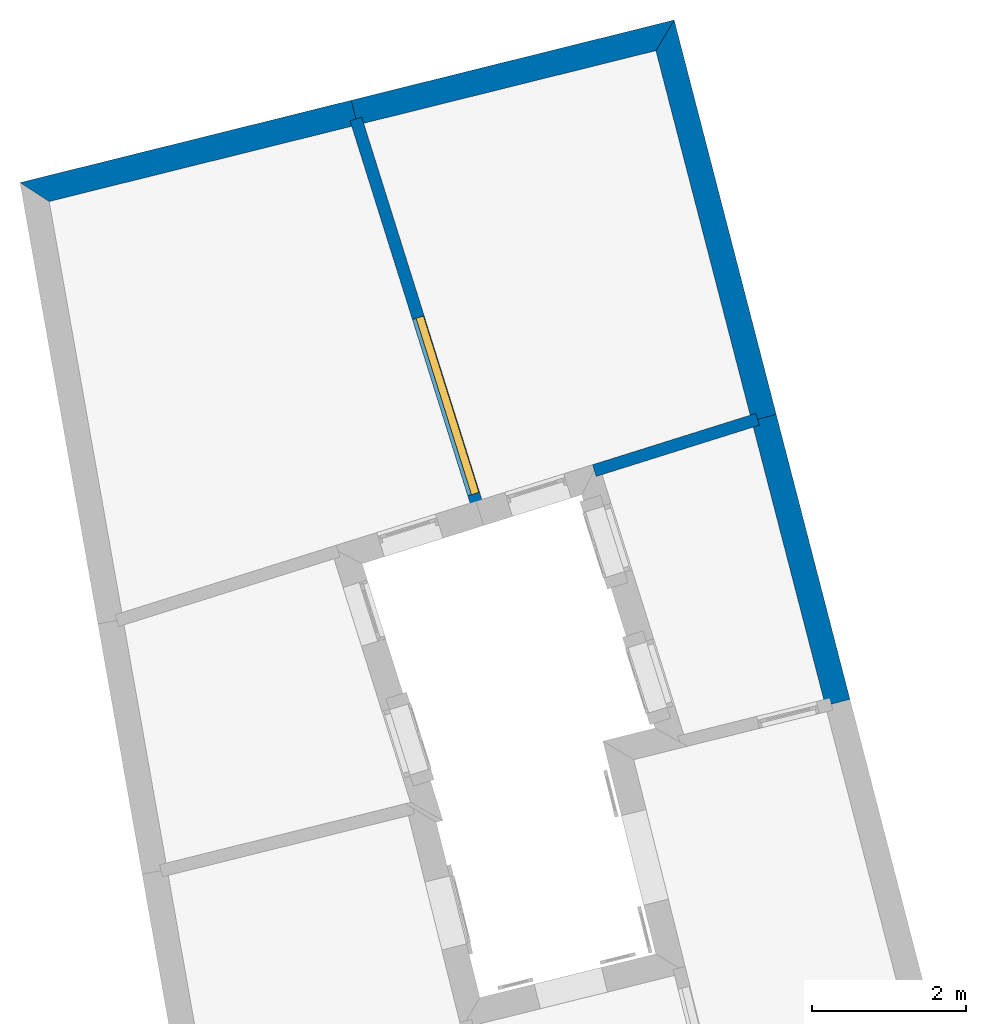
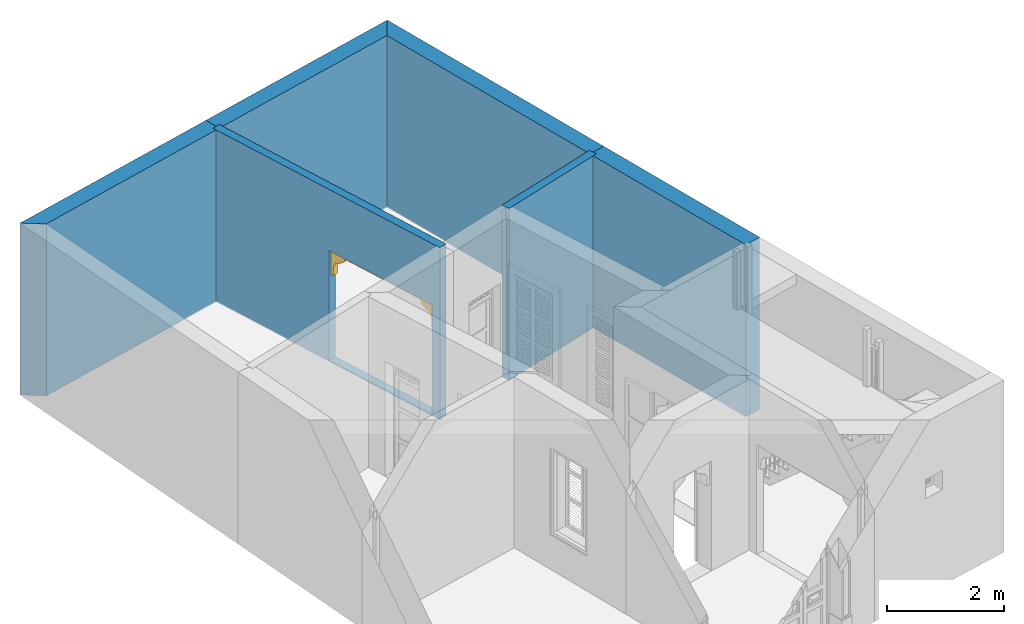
# One storey, part 14 of 14: 6 walls, 1 door, 1 opening.
"""IFC4 building model written with IfcOpenShell, lengths in metres."""

from ifc_helpers import new_model, si_unit, frame, origin, origin_with_axes, place, context, subcontext, project, spatial, polyline, outline, extrude, faceted_brep, source, transform, mapped, material, layer, layer_set, layer_usage, type_object, type_shapes, element, fill, save


model = new_model("IFC4")

# Units and contexts
model_context = context("Model", 3, world=origin_with_axes())
body_context = subcontext(model_context, "Body", "Model", "MODEL_VIEW")
ifc_project = project(units=[si_unit("PLANEANGLEUNIT", "RADIAN"), si_unit("MASSUNIT", "GRAM", prefix="KILO"), si_unit("FORCEUNIT", "NEWTON", prefix="KILO"), si_unit("LENGTHUNIT", "METRE"), si_unit("AREAUNIT", "SQUARE_METRE"), si_unit("VOLUMEUNIT", "CUBIC_METRE")], contexts=[model_context, model_context])

# Site, building, storey
site_placement = place(None, origin_with_axes())
site = spatial("IfcSite", under=ifc_project, at=site_placement, Name="Site plot-0", CompositionType="ELEMENT")
building_placement = place(None, origin_with_axes())
building = spatial("IfcBuilding", under=site, at=building_placement, Name="Building plot-0", CompositionType="ELEMENT")
storey_placement = place(None, origin_with_axes())
storey = spatial("IfcBuildingStorey", under=building, at=storey_placement, Name="plot-0 0", CompositionType="ELEMENT", Elevation=0.0)

# Walls
ifc_material_1 = material(Name="Masonry")
ifc_layer_1 = layer(ifc_material_1, 0.33, ventilated=False)
ifc_layer_set_1 = layer_set([ifc_layer_1], Name="party_0.08_0.25")
ifc_layer_usage_1 = layer_usage(ifc_layer_set_1, "AXIS2", "POSITIVE", -0.25)
wall_type_1 = type_object("IfcWallType", Name="party_0.08_0.25", PredefinedType="SOLIDWALL", material=ifc_layer_set_1)
wall_1_placement = place(storey_placement, frame((9.41619957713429, 6.73678742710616, 0.0), z_axis=(0.0, 0.0, 1.0), x_axis=(-0.250522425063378, 0.968110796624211, 0.0)))
element("IfcWall", 1, at=wall_1_placement, inside=storey, type_object=wall_type_1, material=ifc_layer_usage_1, Name="party", context=body_context, shape_type="SweptSolid", body=[
    extrude(outline(polyline([(7.86495596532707e-16, 0.0800000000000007), (-1.09491493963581e-15, -0.249999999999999), (3.82113603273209, -0.25), (3.82113603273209, 0.0799999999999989), (7.86495596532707e-16, 0.0800000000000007)])), origin_with_axes(), (0.0, 0.0, 1.0), 3.6),
])
wall_2_placement = place(storey_placement, frame((8.45891931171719, 10.4360704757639, 0.0), z_axis=(0.0, 0.0, 1.0), x_axis=(-0.250522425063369, 0.968110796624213, 0.0)))
element("IfcWall", 2, at=wall_2_placement, inside=storey, type_object=wall_type_1, material=ifc_layer_usage_1, Name="party", context=body_context, shape_type="SweptSolid", body=[
    extrude(outline(polyline([(-1.30960547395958e-15, 0.0799999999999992), (3.01291025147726e-15, -0.25), (5.29157297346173, -0.25), (4.96472700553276, 0.0799999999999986), (-1.30960547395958e-15, 0.0799999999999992)])), origin_with_axes(), (0.0, 0.0, 1.0), 3.6),
])
wall_3_placement = place(storey_placement, frame((7.19529362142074, 15.3191849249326, 0.0), z_axis=(0.0, 0.0, 1.0), x_axis=(-0.970472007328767, -0.241213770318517, 0.0)))
element("IfcWall", 3, at=wall_3_placement, inside=storey, type_object=wall_type_1, material=ifc_layer_usage_1, Name="party", context=body_context, shape_type="SweptSolid", body=[
    extrude(outline(polyline([(0.0792353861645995, 0.0799999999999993), (-0.247610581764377, -0.25), (4.07381579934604, -0.250000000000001), (4.07381579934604, 0.0799999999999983), (0.0792353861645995, 0.0799999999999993)])), origin_with_axes(), (0.0, 0.0, 1.0), 3.6),
])
wall_4_placement = place(storey_placement, frame((3.24176942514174, 14.3365244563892, 0.0), z_axis=(0.0, 0.0, 1.0), x_axis=(-0.970472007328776, -0.241213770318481, 0.0)))
element("IfcWall", 4, at=wall_4_placement, inside=storey, type_object=wall_type_1, material=ifc_layer_usage_1, Name="party", context=body_context, shape_type="SweptSolid", body=[
    extrude(outline(polyline([(-2.99897525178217e-15, 0.0799999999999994), (9.23015918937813e-15, -0.25), (4.43234420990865, -0.250000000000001), (4.12427449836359, 0.0799999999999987), (-2.99897525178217e-15, 0.0799999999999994)])), origin_with_axes(), (0.0, 0.0, 1.0), 3.6),
])

# Wall, opening, door
ifc_material_2 = material(Name="Masonry")
ifc_layer_2 = layer(ifc_material_2, 0.16, ventilated=False)
ifc_layer_set_2 = layer_set([ifc_layer_2], Name="interior_0.08_0.08")
ifc_layer_usage_2 = layer_usage(ifc_layer_set_2, "AXIS2", "POSITIVE", -0.08)
wall_type_2 = type_object("IfcWallType", Name="interior_0.08_0.08", PredefinedType="SOLIDWALL", material=ifc_layer_set_2)
wall_5_placement = place(storey_placement, frame((4.82576473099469, 9.29464982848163, 0.0), z_axis=(0.0, 0.0, 1.0), x_axis=(-0.299724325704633, 0.954025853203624, 0.0)))
wall_5 = element("IfcWall", 5, at=wall_5_placement, inside=storey, type_object=wall_type_2, material=ifc_layer_usage_2, Name="interior", context=body_context, shape_type="SweptSolid", body=[
    extrude(outline(polyline([(-7.41171285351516e-16, 0.08), (7.50968459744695e-16, -0.08), (5.2848406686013, -0.0799999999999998), (5.2848406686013, 0.0799999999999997), (-7.41171285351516e-16, 0.08)])), origin_with_axes(), (0.0, 0.0, 1.0), 3.6),
])
opening_placement = place(wall_5_placement, frame((0.18, 0.0, 0.02)))
opening = element("IfcOpeningElement", 6, at=opening_placement, cuts=wall_5, Name="My Opening", ObjectType="Opening", context=body_context, shape_type="SweptSolid", body=[
    extrude(outline(polyline([(0.0, -0.0999999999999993), (2.4, -0.0999999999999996), (2.4, 1.1), (-1.94289029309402e-15, 1.1), (0.0, -0.0999999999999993)])), origin_with_axes(), (0.0, 0.0, 1.0), 2.3),
])
door_type = type_object("IfcDoorType", Name="arch-2400x2300-thin", OperationType="SINGLE_SWING_LEFT", PredefinedType="NOTDEFINED")
shared_shape = source(origin(), body_context, "Body", "Brep", [
    faceted_brep([(2.4, 0.03, 1.78), (2.4, 0.03, 1.95), (2.34, 0.03, 1.95), (2.34, 0.03, 1.78), (2.34, 0.13, 1.95), (2.34, 0.13, 1.78), (2.4, 0.03, 2.12), (2.329, 0.03, 2.004), (2.4, 0.13, 1.78), (2.4, 0.13, 1.95), (2.329, 0.13, 2.004), (2.299, 0.03, 2.049), (2.4, 0.13, 2.12), (2.299, 0.13, 2.049), (2.254, 0.03, 2.079), (2.4, 0.13, 2.29), (2.4, 0.03, 2.29), (2.254, 0.13, 2.079), (2.2, 0.03, 2.09), (2.2, 0.03, 2.12), (2.154, 0.03, 2.129), (2.08, 0.13, 2.29), (2.08, 0.03, 2.29), (2.2, 0.13, 2.12), (2.154, 0.13, 2.129), (2.2, 0.13, 2.09), (2.115, 0.03, 2.155), (2.089, 0.13, 2.194), (2.08, 0.13, 2.24), (2.08, 0.03, 2.24), (2.089, 0.03, 2.194), (2.115, 0.13, 2.155), (0.06, 0.03, 1.78), (0.06, 0.03, 1.95), (0.0, 0.03, 1.95), (0.0, 0.03, 1.78), (0.06, 0.13, 1.78), (0.06, 0.13, 1.95), (0.071, 0.03, 2.004), (0.0, 0.03, 2.12), (0.0, 0.13, 1.95), (0.0, 0.13, 1.78), (0.071, 0.13, 2.004), (0.101, 0.03, 2.049), (0.0, 0.13, 2.12), (0.101, 0.13, 2.049), (0.146, 0.03, 2.079), (0.0, 0.03, 2.29), (0.0, 0.13, 2.29), (0.146, 0.13, 2.079), (0.2, 0.03, 2.12), (0.2, 0.03, 2.09), (0.246, 0.03, 2.129), (0.32, 0.03, 2.29), (0.32, 0.13, 2.29), (0.246, 0.13, 2.129), (0.2, 0.13, 2.12), (0.2, 0.13, 2.09), (0.285, 0.03, 2.155), (0.32, 0.13, 2.24), (0.311, 0.13, 2.194), (0.311, 0.03, 2.194), (0.32, 0.03, 2.24), (0.285, 0.13, 2.155)], [[[0, 1, 2, 3]], [[4, 5, 3, 2]], [[1, 6, 7, 2]], [[1, 0, 8, 9]], [[5, 8, 0, 3]], [[5, 4, 9, 8]], [[10, 4, 2, 7]], [[6, 11, 7]], [[6, 1, 9, 12]], [[4, 10, 12, 9]], [[13, 10, 7, 11]], [[6, 14, 11]], [[12, 15, 16, 6]], [[12, 10, 13]], [[17, 13, 11, 14]], [[18, 14, 6, 19]], [[6, 16, 20, 19]], [[16, 15, 21, 22]], [[23, 24, 15, 12]], [[12, 13, 17]], [[25, 17, 14, 18]], [[23, 25, 18, 19]], [[24, 23, 19, 20]], [[16, 26, 20]], [[15, 27, 28, 21]], [[16, 22, 29, 30]], [[31, 15, 24]], [[23, 12, 17, 25]], [[31, 24, 20, 26]], [[16, 30, 26]], [[28, 27, 30, 29]], [[27, 15, 31]], [[27, 31, 26, 30]], [[32, 33, 34, 35]], [[33, 32, 36, 37]], [[33, 38, 39, 34]], [[35, 34, 40, 41]], [[32, 35, 41, 36]], [[41, 40, 37, 36]], [[38, 33, 37, 42]], [[38, 43, 39]], [[44, 40, 34, 39]], [[40, 44, 42, 37]], [[43, 38, 42, 45]], [[43, 46, 39]], [[39, 47, 48, 44]], [[45, 42, 44]], [[46, 43, 45, 49]], [[50, 39, 46, 51]], [[50, 52, 47, 39]], [[53, 54, 48, 47]], [[44, 48, 55, 56]], [[49, 45, 44]], [[51, 46, 49, 57]], [[50, 51, 57, 56]], [[52, 50, 56, 55]], [[52, 58, 47]], [[54, 59, 60, 48]], [[61, 62, 53, 47]], [[55, 48, 63]], [[57, 49, 44, 56]], [[58, 52, 55, 63]], [[58, 61, 47]], [[62, 61, 60, 59]], [[63, 48, 60]], [[61, 58, 63, 60]], [[62, 59, 28, 29]], [[59, 54, 21, 28]], [[53, 62, 29, 22]], [[54, 53, 22, 21]]]),
])
type_shapes(door_type, [shared_shape])
door_placement = place(storey_placement, frame((4.86721693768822, 9.49634691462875, 0.02), z_axis=(0.0, 0.0, 1.0), x_axis=(-0.71933838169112, 2.2896620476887, 0.0)))
door = element("IfcDoor", 7, at=door_placement, inside=storey, type_object=door_type, Name="kitchen living inside door", OverallHeight=2.3, OverallWidth=2.4, context=body_context, shape_type="MappedRepresentation", body=[
    mapped(shared_shape, transform((0.0, 0.0, 0.0), scale=1.0)),
])
fill(opening, door)

# Wall
wall_6_placement = place(storey_placement, frame((8.45891931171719, 10.4360704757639, 0.0), z_axis=(0.0, 0.0, 1.0), x_axis=(-0.95402585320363, -0.299724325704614, 0.0)))
element("IfcWall", 8, at=wall_6_placement, inside=storey, type_object=wall_type_2, material=ifc_layer_usage_2, Name="interior", context=body_context, shape_type="SweptSolid", body=[
    extrude(outline(polyline([(-4.4102140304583e-16, 0.0800000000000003), (4.48987797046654e-16, -0.0800000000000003), (2.22266123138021, -0.08), (2.22266123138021, 0.08), (-4.4102140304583e-16, 0.0800000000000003)])), origin_with_axes(), (0.0, 0.0, 1.0), 3.6),
])

save(model, "model.ifc")
